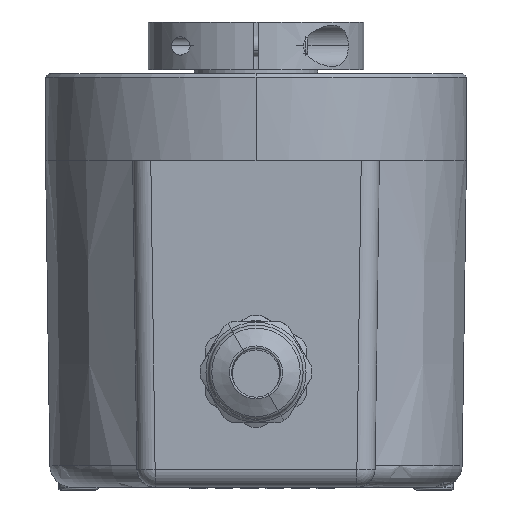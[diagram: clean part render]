
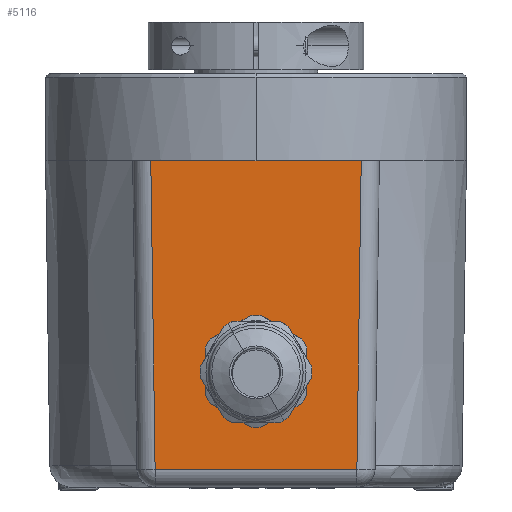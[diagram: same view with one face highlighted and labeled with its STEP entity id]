
A CAD part, front view. The second image highlights one B-rep face of the part: STEP entity #5116.
In plain terms, the highlighted planar face has unit normal (0, -1, -0.014).
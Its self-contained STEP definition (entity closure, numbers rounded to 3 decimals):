
#485 = VECTOR ( 'NONE', #793, 1000. ) ;
#628 = VERTEX_POINT ( 'NONE', #7197 ) ;
#793 = DIRECTION ( 'NONE',  ( 0.014, 0.014, -1. ) ) ;
#1503 = LINE ( 'NONE', #9639, #5150 ) ;
#1505 = CARTESIAN_POINT ( 'NONE',  ( 5.65, -28.595, 16. ) ) ;
#1662 = EDGE_CURVE ( 'NONE', #1746, #4643, #3881, .T. ) ;
#1744 = VERTEX_POINT ( 'NONE', #1505 ) ;
#1746 = VERTEX_POINT ( 'NONE', #11416 ) ;
#1846 = EDGE_CURVE ( 'NONE', #10769, #628, #2577, .T. ) ;
#2064 = VERTEX_POINT ( 'NONE', #11289 ) ;
#2224 = CARTESIAN_POINT ( 'NONE',  ( 17., -29., 45. ) ) ;
#2255 = CARTESIAN_POINT ( 'NONE',  ( -5.65, -28.753, 27.3 ) ) ;
#2263 = CARTESIAN_POINT ( 'NONE',  ( 5.65, -28.595, 16. ) ) ;
#2373 = CARTESIAN_POINT ( 'NONE',  ( 5.65, -28.753, 27.3 ) ) ;
#2383 = EDGE_LOOP ( 'NONE', ( #6303, #9324, #6290, #11399, #6918 ) ) ;
#2577 = LINE ( 'NONE', #8775, #485 ) ;
#3333 = CARTESIAN_POINT ( 'NONE',  ( -5.65, -28.595, 16. ) ) ;
#3343 = EDGE_CURVE ( 'NONE', #7819, #4643, #6268, .T. ) ;
#3345 =( BOUNDED_CURVE ( )  B_SPLINE_CURVE ( 3, ( #4200, #2373, #2255, #10274 ),
 .UNSPECIFIED., .F., .F. ) 
 B_SPLINE_CURVE_WITH_KNOTS ( ( 4, 4 ),
 ( 4.712, 7.854 ),
 .UNSPECIFIED. ) 
 CURVE ( )  GEOMETRIC_REPRESENTATION_ITEM ( )  RATIONAL_B_SPLINE_CURVE ( ( 1., 0.333, 0.333, 1. ) ) 
 REPRESENTATION_ITEM ( '' )  );
#3510 = CARTESIAN_POINT ( 'NONE',  ( 17., -29., 45. ) ) ;
#3559 = EDGE_CURVE ( 'NONE', #1744, #2064, #3345, .T. ) ;
#3881 = LINE ( 'NONE', #2224, #5575 ) ;
#4200 = CARTESIAN_POINT ( 'NONE',  ( 5.65, -28.595, 16. ) ) ;
#4275 = CARTESIAN_POINT ( 'NONE',  ( 14.501, -29., 45.035 ) ) ;
#4444 = DIRECTION ( 'NONE',  ( 1., 0., 0. ) ) ;
#4643 = VERTEX_POINT ( 'NONE', #11577 ) ;
#5116 = ADVANCED_FACE ( 'NONE', ( #9224, #8344 ), #7224, .T. ) ;
#5150 = VECTOR ( 'NONE', #5884, 1000. ) ;
#5351 = EDGE_CURVE ( 'NONE', #10769, #1746, #8038, .T. ) ;
#5575 = VECTOR ( 'NONE', #6766, 1000. ) ;
#5884 = DIRECTION ( 'NONE',  ( 1., 0., 0. ) ) ;
#6163 = CARTESIAN_POINT ( 'NONE',  ( 13.906, -28.406, 2.465 ) ) ;
#6268 = LINE ( 'NONE', #4275, #8618 ) ;
#6290 = ORIENTED_EDGE ( 'NONE', *, *, #11184, .T. ) ;
#6303 = ORIENTED_EDGE ( 'NONE', *, *, #5351, .F. ) ;
#6698 = CARTESIAN_POINT ( 'NONE',  ( 17., -29., 45. ) ) ;
#6766 = DIRECTION ( 'NONE',  ( 1., 0., 0. ) ) ;
#6918 = ORIENTED_EDGE ( 'NONE', *, *, #1662, .F. ) ;
#7085 = AXIS2_PLACEMENT_3D ( 'NONE', #6698, #7568, #9517 ) ;
#7197 = CARTESIAN_POINT ( 'NONE',  ( -13.906, -28.406, 2.465 ) ) ;
#7224 = PLANE ( 'NONE',  #7085 ) ;
#7275 = ORIENTED_EDGE ( 'NONE', *, *, #3559, .F. ) ;
#7568 = DIRECTION ( 'NONE',  ( 0., -1., -0.014 ) ) ;
#7637 = CARTESIAN_POINT ( 'NONE',  ( -5.65, -28.437, 4.7 ) ) ;
#7801 =( BOUNDED_CURVE ( )  B_SPLINE_CURVE ( 3, ( #3333, #7637, #11229, #2263 ),
 .UNSPECIFIED., .F., .F. ) 
 B_SPLINE_CURVE_WITH_KNOTS ( ( 4, 4 ),
 ( 1.571, 4.712 ),
 .UNSPECIFIED. ) 
 CURVE ( )  GEOMETRIC_REPRESENTATION_ITEM ( )  RATIONAL_B_SPLINE_CURVE ( ( 1., 0.333, 0.333, 1. ) ) 
 REPRESENTATION_ITEM ( '' )  );
#7819 = VERTEX_POINT ( 'NONE', #6163 ) ;
#8038 = LINE ( 'NONE', #3510, #8264 ) ;
#8264 = VECTOR ( 'NONE', #4444, 1000. ) ;
#8344 = FACE_OUTER_BOUND ( 'NONE', #2383, .T. ) ;
#8350 = ORIENTED_EDGE ( 'NONE', *, *, #11637, .F. ) ;
#8618 = VECTOR ( 'NONE', #8932, 1000. ) ;
#8626 = CARTESIAN_POINT ( 'NONE',  ( -14.5, -29., 45. ) ) ;
#8775 = CARTESIAN_POINT ( 'NONE',  ( -14.494, -28.994, 44.56 ) ) ;
#8932 = DIRECTION ( 'NONE',  ( 0.014, -0.014, 1. ) ) ;
#9224 = FACE_BOUND ( 'NONE', #10170, .T. ) ;
#9324 = ORIENTED_EDGE ( 'NONE', *, *, #1846, .T. ) ;
#9517 = DIRECTION ( 'NONE',  ( 0., -0.014, 1. ) ) ;
#9639 = CARTESIAN_POINT ( 'NONE',  ( 17., -28.406, 2.465 ) ) ;
#10170 = EDGE_LOOP ( 'NONE', ( #7275, #8350 ) ) ;
#10274 = CARTESIAN_POINT ( 'NONE',  ( -5.65, -28.595, 16. ) ) ;
#10769 = VERTEX_POINT ( 'NONE', #8626 ) ;
#11184 = EDGE_CURVE ( 'NONE', #628, #7819, #1503, .T. ) ;
#11229 = CARTESIAN_POINT ( 'NONE',  ( 5.65, -28.437, 4.7 ) ) ;
#11289 = CARTESIAN_POINT ( 'NONE',  ( -5.65, -28.595, 16. ) ) ;
#11399 = ORIENTED_EDGE ( 'NONE', *, *, #3343, .T. ) ;
#11416 = CARTESIAN_POINT ( 'NONE',  ( 0., -29., 45. ) ) ;
#11577 = CARTESIAN_POINT ( 'NONE',  ( 14.5, -29., 45. ) ) ;
#11637 = EDGE_CURVE ( 'NONE', #2064, #1744, #7801, .T. ) ;
